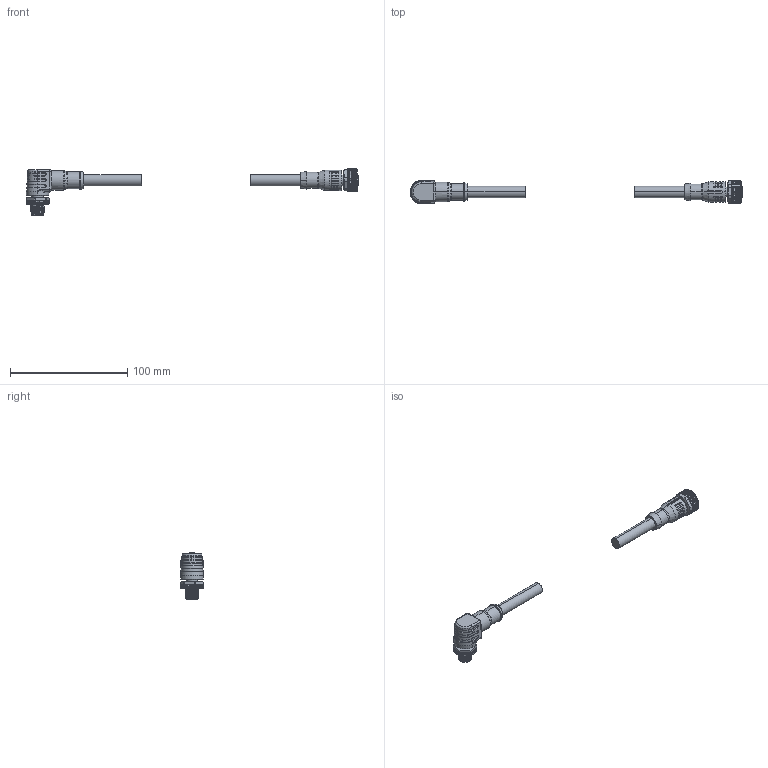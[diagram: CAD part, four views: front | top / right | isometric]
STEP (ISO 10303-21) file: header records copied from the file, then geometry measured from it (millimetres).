
FILE_DESCRIPTION (( 'STEP AP203' ), '1' );
FILE_NAME ('64LD21-XXX.STEP', '2024-12-09T06:05:37', ( 'L' ), ( '' ), 'SwSTEP 2.0', 'SolidWorks 2019', '' );
FILE_SCHEMA (( 'CONFIG_CONTROL_DESIGN' ));
Length unit declared in the file: millimetre
Products named in the file (1): 64LD21-XXX
Bounding box: 283.67 x 20 x 40.05 mm (x, y, z)
Volume: 30698 mm3; surface area: 14836.5 mm2
Topology: 2 solids, 13 shells, 1122 faces, 3012 edges, 1938 vertices
Faces by surface type: plane 476, cylinder 331, cone 164, bspline 98, torus 43, sphere 10
Entity records: 57255 total; most frequent: CARTESIAN_POINT 30929, ORIENTED_EDGE 5960, DIRECTION 4828, EDGE_CURVE 2980, VERTEX_POINT 1928, AXIS2_PLACEMENT_3D 1845, EDGE_LOOP 1184, LINE 1138
